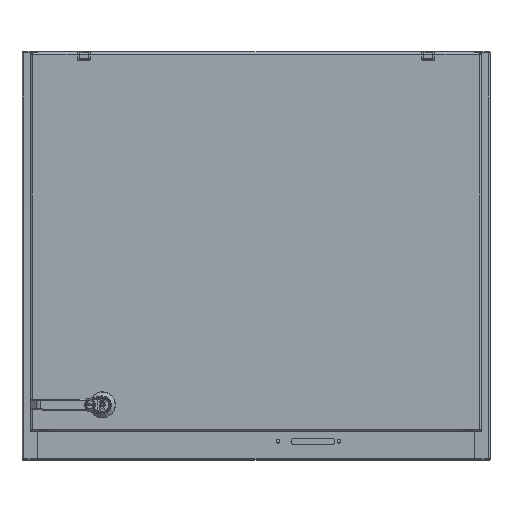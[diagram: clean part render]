
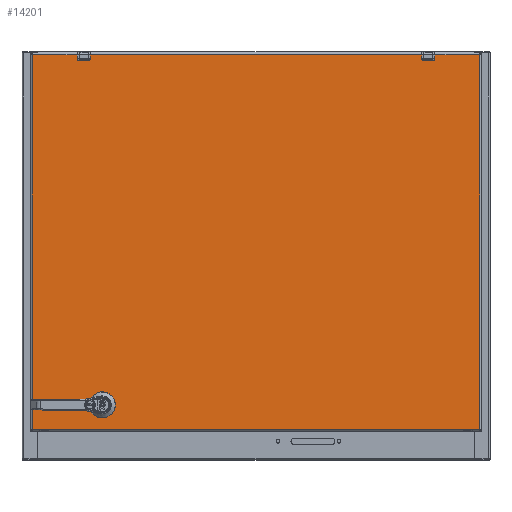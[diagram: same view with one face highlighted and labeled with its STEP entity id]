
A CAD part, top view. The second image highlights one B-rep face of the part: STEP entity #14201.
In plain terms, the highlighted planar face has unit normal (0, 0, 1).
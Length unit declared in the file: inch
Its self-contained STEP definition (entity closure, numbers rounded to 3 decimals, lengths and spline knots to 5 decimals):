
#10824=CARTESIAN_POINT('',(12.525,-12.915,0.));
#10825=DIRECTION('',(0.,0.,1.));
#10826=DIRECTION('',(-1.,0.,0.));
#10827=AXIS2_PLACEMENT_3D('',#10824,#10825,#10826);
#10832=CARTESIAN_POINT('',(12.525,-12.915,0.));
#10833=DIRECTION('',(0.,0.,1.));
#10834=DIRECTION('',(1.,0.,0.));
#10835=AXIS2_PLACEMENT_3D('',#10832,#10833,#10834);
#10840=DIRECTION('',(1.,0.,0.));
#10841=VECTOR('',#10840,0.39715);
#10842=CARTESIAN_POINT('',(12.32642,-11.429,0.));
#10843=LINE('',#10842,#10841);
#10847=CARTESIAN_POINT('',(12.525,-11.825,0.));
#10848=DIRECTION('',(0.,0.,1.));
#10849=DIRECTION('',(-0.448,0.894,0.));
#10850=AXIS2_PLACEMENT_3D('',#10847,#10848,#10849);
#10855=DIRECTION('',(0.,1.,0.));
#10856=VECTOR('',#10855,0.39715);
#10857=CARTESIAN_POINT('',(12.129,-12.02358,0.));
#10858=LINE('',#10857,#10856);
#10862=CARTESIAN_POINT('',(12.525,-11.825,0.));
#10863=DIRECTION('',(0.,0.,1.));
#10864=DIRECTION('',(-0.894,-0.448,0.));
#10865=AXIS2_PLACEMENT_3D('',#10862,#10863,#10864);
#10870=DIRECTION('',(-1.,0.,0.));
#10871=VECTOR('',#10870,0.39715);
#10872=CARTESIAN_POINT('',(12.72358,-12.221,0.));
#10873=LINE('',#10872,#10871);
#10877=CARTESIAN_POINT('',(12.525,-11.825,0.));
#10878=DIRECTION('',(0.,0.,1.));
#10879=DIRECTION('',(0.448,-0.894,0.));
#10880=AXIS2_PLACEMENT_3D('',#10877,#10878,#10879);
#10885=DIRECTION('',(0.,-1.,0.));
#10886=VECTOR('',#10885,0.39715);
#10887=CARTESIAN_POINT('',(12.921,-11.62642,0.));
#10888=LINE('',#10887,#10886);
#10892=CARTESIAN_POINT('',(12.525,-11.825,0.));
#10893=DIRECTION('',(0.,0.,1.));
#10894=DIRECTION('',(0.894,0.448,0.));
#10895=AXIS2_PLACEMENT_3D('',#10892,#10893,#10894);
#10900=DIRECTION('',(1.,0.,0.));
#10901=VECTOR('',#10900,0.3629);
#10902=CARTESIAN_POINT('',(-14.4205,-13.595,0.));
#10903=LINE('',#10902,#10901);
#10907=DIRECTION('',(0.,1.,0.));
#10908=VECTOR('',#10907,0.63);
#10909=CARTESIAN_POINT('',(-14.0276,-13.565,0.));
#10910=LINE('',#10909,#10908);
#10914=DIRECTION('',(1.,0.,0.));
#10915=VECTOR('',#10914,0.3629);
#10916=CARTESIAN_POINT('',(-14.4205,-12.905,0.));
#10917=LINE('',#10916,#10915);
#10921=DIRECTION('',(1.,0.,0.));
#10922=VECTOR('',#10921,0.3629);
#10923=CARTESIAN_POINT('',(-14.4205,12.905,0.));
#10924=LINE('',#10923,#10922);
#10928=DIRECTION('',(0.,1.,0.));
#10929=VECTOR('',#10928,0.63);
#10930=CARTESIAN_POINT('',(-14.0276,12.935,0.));
#10931=LINE('',#10930,#10929);
#10935=DIRECTION('',(1.,0.,0.));
#10936=VECTOR('',#10935,0.3629);
#10937=CARTESIAN_POINT('',(-14.4205,13.595,0.));
#10938=LINE('',#10937,#10936);
#11503=DIRECTION('',(0.,-1.,0.));
#11504=VECTOR('',#11503,34.416);
#11505=CARTESIAN_POINT('',(14.4205,17.208,0.));
#11506=LINE('',#11505,#11504);
#11575=DIRECTION('',(1.,0.,0.));
#11576=VECTOR('',#11575,28.841);
#11577=CARTESIAN_POINT('',(-14.4205,17.208,0.));
#11578=LINE('',#11577,#11576);
#11703=DIRECTION('',(0.,1.,0.));
#11704=VECTOR('',#11703,25.81);
#11705=CARTESIAN_POINT('',(-14.4205,-12.905,0.));
#11706=LINE('',#11705,#11704);
#11710=CARTESIAN_POINT('',(-14.4205,17.208,0.));
#11747=DIRECTION('',(0.,1.,0.));
#11748=VECTOR('',#11747,3.613);
#11749=CARTESIAN_POINT('',(-14.4205,13.595,0.));
#11750=LINE('',#11749,#11748);
#11821=DIRECTION('',(0.,1.,0.));
#11822=VECTOR('',#11821,3.613);
#11823=CARTESIAN_POINT('',(-14.4205,-17.208,0.));
#11824=LINE('',#11823,#11822);
#11842=CARTESIAN_POINT('',(-14.0576,-12.935,0.));
#11843=DIRECTION('',(0.,0.,-1.));
#11844=DIRECTION('',(0.,1.,0.));
#11845=AXIS2_PLACEMENT_3D('',#11842,#11843,#11844);
#11872=CARTESIAN_POINT('',(-14.0576,-13.565,0.));
#11873=DIRECTION('',(0.,0.,-1.));
#11874=DIRECTION('',(1.,0.,0.));
#11875=AXIS2_PLACEMENT_3D('',#11872,#11873,#11874);
#12214=DIRECTION('',(-1.,0.,0.));
#12215=VECTOR('',#12214,28.841);
#12216=CARTESIAN_POINT('',(14.4205,-17.208,0.));
#12217=LINE('',#12216,#12215);
#12467=CARTESIAN_POINT('',(-14.0576,12.935,0.));
#12468=DIRECTION('',(0.,0.,-1.));
#12469=DIRECTION('',(1.,0.,0.));
#12470=AXIS2_PLACEMENT_3D('',#12467,#12468,#12469);
#12497=CARTESIAN_POINT('',(-14.0576,13.565,0.));
#12498=DIRECTION('',(0.,0.,-1.));
#12499=DIRECTION('',(0.,1.,0.));
#12500=AXIS2_PLACEMENT_3D('',#12497,#12498,#12499);
#13716=CARTESIAN_POINT('',(14.4205,17.208,0.));
#13717=CARTESIAN_POINT('',(14.4205,-17.208,0.));
#13718=VERTEX_POINT('',#13716);
#13719=VERTEX_POINT('',#13717);
#13844=CARTESIAN_POINT('',(12.4,-12.915,0.));
#13845=CARTESIAN_POINT('',(12.65,-12.915,0.));
#13846=VERTEX_POINT('',#13844);
#13847=VERTEX_POINT('',#13845);
#13848=CARTESIAN_POINT('',(12.32642,-11.429,0.));
#13849=CARTESIAN_POINT('',(12.72358,-11.429,0.));
#13850=VERTEX_POINT('',#13848);
#13851=VERTEX_POINT('',#13849);
#13852=CARTESIAN_POINT('',(12.921,-11.62642,0.));
#13853=VERTEX_POINT('',#13852);
#13854=CARTESIAN_POINT('',(12.921,-12.02358,0.));
#13855=VERTEX_POINT('',#13854);
#13856=CARTESIAN_POINT('',(12.72358,-12.221,0.));
#13857=VERTEX_POINT('',#13856);
#13858=CARTESIAN_POINT('',(12.32642,-12.221,0.));
#13859=VERTEX_POINT('',#13858);
#13860=CARTESIAN_POINT('',(12.129,-12.02358,0.));
#13861=VERTEX_POINT('',#13860);
#13862=CARTESIAN_POINT('',(12.129,-11.62642,0.));
#13863=VERTEX_POINT('',#13862);
#13914=VERTEX_POINT('',#11710);
#13919=CARTESIAN_POINT('',(-14.4205,-17.208,0.));
#13921=VERTEX_POINT('',#13919);
#14042=CARTESIAN_POINT('',(-14.4205,13.595,0.));
#14044=VERTEX_POINT('',#14042);
#14046=CARTESIAN_POINT('',(-14.4205,12.905,0.));
#14048=VERTEX_POINT('',#14046);
#14058=CARTESIAN_POINT('',(-14.4205,-12.905,0.));
#14060=VERTEX_POINT('',#14058);
#14062=CARTESIAN_POINT('',(-14.4205,-13.595,0.));
#14064=VERTEX_POINT('',#14062);
#14074=CARTESIAN_POINT('',(-14.0576,13.595,0.));
#14076=VERTEX_POINT('',#14074);
#14078=CARTESIAN_POINT('',(-14.0276,13.565,0.));
#14080=VERTEX_POINT('',#14078);
#14082=CARTESIAN_POINT('',(-14.0276,12.935,0.));
#14084=VERTEX_POINT('',#14082);
#14086=CARTESIAN_POINT('',(-14.0576,12.905,0.));
#14088=VERTEX_POINT('',#14086);
#14106=CARTESIAN_POINT('',(-14.0576,-12.905,0.));
#14108=VERTEX_POINT('',#14106);
#14110=CARTESIAN_POINT('',(-14.0276,-12.935,0.));
#14112=VERTEX_POINT('',#14110);
#14114=CARTESIAN_POINT('',(-14.0276,-13.565,0.));
#14116=VERTEX_POINT('',#14114);
#14118=CARTESIAN_POINT('',(-14.0576,-13.595,0.));
#14120=VERTEX_POINT('',#14118);
#14138=CARTESIAN_POINT('',(0.,0.,0.));
#14139=DIRECTION('',(0.,0.,-1.));
#14140=DIRECTION('',(1.,0.,0.));
#14141=AXIS2_PLACEMENT_3D('',#14138,#14139,#14140);
#14142=PLANE('',#14141);
#14144=ORIENTED_EDGE('',*,*,#14143,.T.);
#14146=ORIENTED_EDGE('',*,*,#14145,.T.);
#14148=ORIENTED_EDGE('',*,*,#14147,.T.);
#14150=ORIENTED_EDGE('',*,*,#14149,.F.);
#14152=ORIENTED_EDGE('',*,*,#14151,.T.);
#14154=ORIENTED_EDGE('',*,*,#14153,.F.);
#14156=ORIENTED_EDGE('',*,*,#14155,.F.);
#14158=ORIENTED_EDGE('',*,*,#14157,.T.);
#14160=ORIENTED_EDGE('',*,*,#14159,.T.);
#14162=ORIENTED_EDGE('',*,*,#14161,.F.);
#14164=ORIENTED_EDGE('',*,*,#14163,.T.);
#14166=ORIENTED_EDGE('',*,*,#14165,.F.);
#14168=ORIENTED_EDGE('',*,*,#14167,.F.);
#14170=ORIENTED_EDGE('',*,*,#14169,.T.);
#14172=ORIENTED_EDGE('',*,*,#14171,.T.);
#14174=ORIENTED_EDGE('',*,*,#14173,.T.);
#14175=EDGE_LOOP('',(#14144,#14146,#14148,#14150,#14152,#14154,#14156,#14158,
#14160,#14162,#14164,#14166,#14168,#14170,#14172,#14174));
#14176=FACE_OUTER_BOUND('',#14175,.F.);
#14178=ORIENTED_EDGE('',*,*,#14177,.F.);
#14180=ORIENTED_EDGE('',*,*,#14179,.T.);
#14182=ORIENTED_EDGE('',*,*,#14181,.F.);
#14184=ORIENTED_EDGE('',*,*,#14183,.T.);
#14186=ORIENTED_EDGE('',*,*,#14185,.F.);
#14188=ORIENTED_EDGE('',*,*,#14187,.T.);
#14190=ORIENTED_EDGE('',*,*,#14189,.F.);
#14192=ORIENTED_EDGE('',*,*,#14191,.T.);
#14193=EDGE_LOOP('',(#14178,#14180,#14182,#14184,#14186,#14188,#14190,#14192));
#14194=FACE_BOUND('',#14193,.F.);
#14196=ORIENTED_EDGE('',*,*,#14195,.T.);
#14198=ORIENTED_EDGE('',*,*,#14197,.T.);
#14199=EDGE_LOOP('',(#14196,#14198));
#14200=FACE_BOUND('',#14199,.F.);
#10828=CIRCLE('',#10827,0.125);
#10836=CIRCLE('',#10835,0.125);
#10851=CIRCLE('',#10850,0.443);
#10866=CIRCLE('',#10865,0.443);
#10881=CIRCLE('',#10880,0.443);
#10896=CIRCLE('',#10895,0.443);
#11846=CIRCLE('',#11845,0.03);
#11876=CIRCLE('',#11875,0.03);
#12471=CIRCLE('',#12470,0.03);
#12501=CIRCLE('',#12500,0.03);
#14143=EDGE_CURVE('',#13719,#13921,#12217,.T.);
#14145=EDGE_CURVE('',#13921,#14064,#11824,.T.);
#14147=EDGE_CURVE('',#14064,#14120,#10903,.T.);
#14149=EDGE_CURVE('',#14116,#14120,#11876,.T.);
#14151=EDGE_CURVE('',#14116,#14112,#10910,.T.);
#14153=EDGE_CURVE('',#14108,#14112,#11846,.T.);
#14155=EDGE_CURVE('',#14060,#14108,#10917,.T.);
#14157=EDGE_CURVE('',#14060,#14048,#11706,.T.);
#14159=EDGE_CURVE('',#14048,#14088,#10924,.T.);
#14161=EDGE_CURVE('',#14084,#14088,#12471,.T.);
#14163=EDGE_CURVE('',#14084,#14080,#10931,.T.);
#14165=EDGE_CURVE('',#14076,#14080,#12501,.T.);
#14167=EDGE_CURVE('',#14044,#14076,#10938,.T.);
#14169=EDGE_CURVE('',#14044,#13914,#11750,.T.);
#14171=EDGE_CURVE('',#13914,#13718,#11578,.T.);
#14173=EDGE_CURVE('',#13718,#13719,#11506,.T.);
#14177=EDGE_CURVE('',#13850,#13851,#10843,.T.);
#14179=EDGE_CURVE('',#13850,#13863,#10851,.T.);
#14181=EDGE_CURVE('',#13861,#13863,#10858,.T.);
#14183=EDGE_CURVE('',#13861,#13859,#10866,.T.);
#14185=EDGE_CURVE('',#13857,#13859,#10873,.T.);
#14187=EDGE_CURVE('',#13857,#13855,#10881,.T.);
#14189=EDGE_CURVE('',#13853,#13855,#10888,.T.);
#14191=EDGE_CURVE('',#13853,#13851,#10896,.T.);
#14195=EDGE_CURVE('',#13846,#13847,#10828,.T.);
#14197=EDGE_CURVE('',#13847,#13846,#10836,.T.);
#14201=ADVANCED_FACE('',(#14176,#14194,#14200),#14142,.F.);
